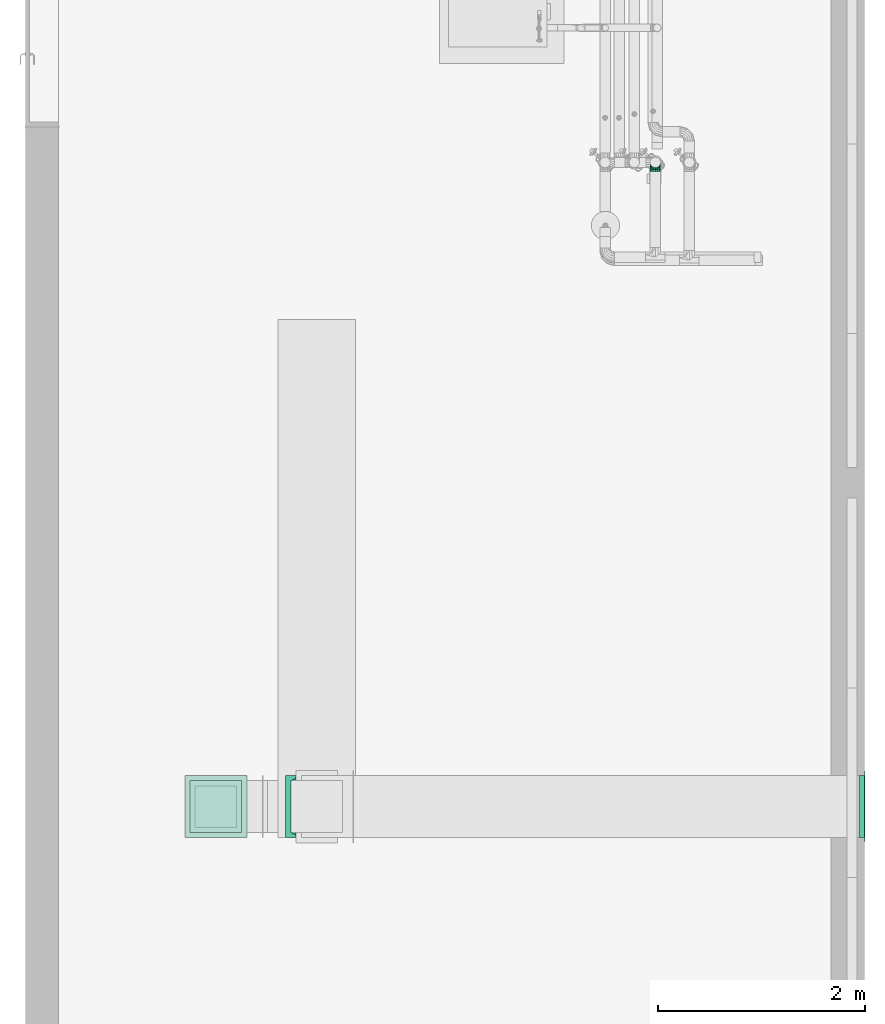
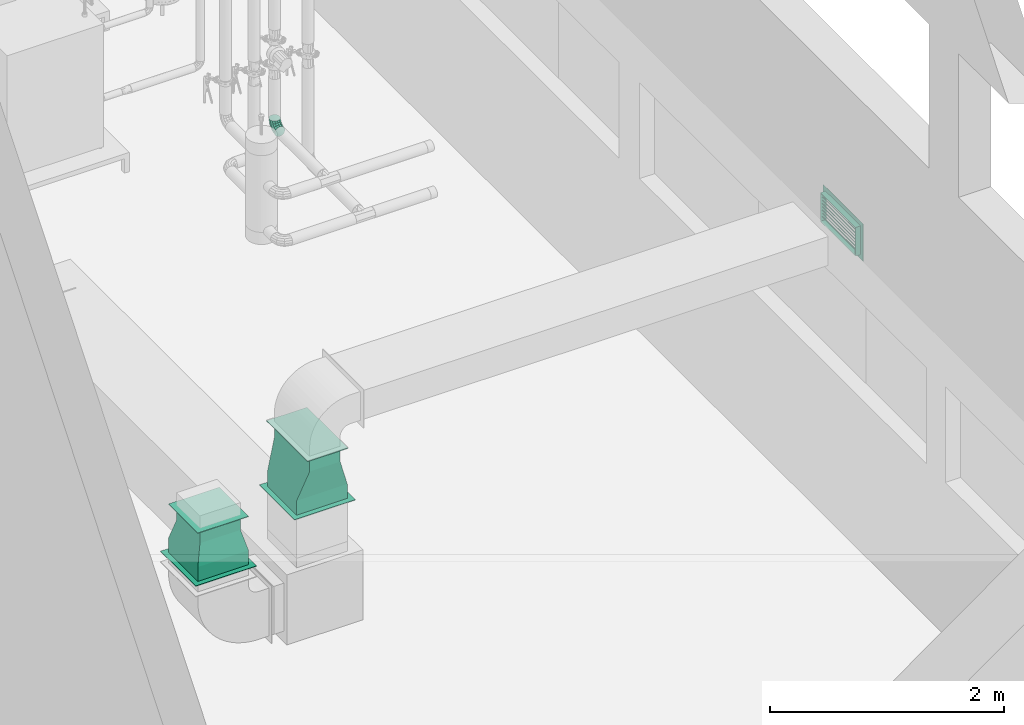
# One storey, part 30 of 43: 3 flow fittings, 1 flow terminal.
"""IFC2X3 building model written with IfcOpenShell, lengths in millimetres."""

from ifc_helpers import new_model, entity, si_unit, converted_unit, derived_unit, direction, frame, origin, place, context, subcontext, project, spatial, faceted_brep, source, transform, mapped, material, material_list, type_object, type_shapes, element, save


model = new_model("IFC2X3")

# Units and contexts
model_context = context("Model", 3, precision=0.01, world=origin(), true_north=direction((6.123031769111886e-17, 1.0)))
body_context = subcontext(model_context, "Body", "Model", "MODEL_VIEW")
ifc_project = project(units=[si_unit("LENGTHUNIT", "METRE", prefix="MILLI"), si_unit("AREAUNIT", "SQUARE_METRE"), si_unit("VOLUMEUNIT", "CUBIC_METRE"), converted_unit("PLANEANGLEUNIT", "DEGREE", entity("IfcRatioMeasure", 0.017453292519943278), si_unit("PLANEANGLEUNIT", "RADIAN"), dimensions=[0, 0, 0, 0, 0, 0, 0]), si_unit("MASSUNIT", "GRAM", prefix="KILO"), derived_unit("MASSDENSITYUNIT", [(si_unit("MASSUNIT", "GRAM", prefix="KILO"), 1), (si_unit("LENGTHUNIT", "METRE"), -3)]), derived_unit("MOMENTOFINERTIAUNIT", [(si_unit("LENGTHUNIT", "METRE"), 4)]), si_unit("TIMEUNIT", "SECOND"), si_unit("FREQUENCYUNIT", "HERTZ"), si_unit("THERMODYNAMICTEMPERATUREUNIT", "DEGREE_CELSIUS"), derived_unit("THERMALTRANSMITTANCEUNIT", [(si_unit("MASSUNIT", "GRAM", prefix="KILO"), 1), (si_unit("THERMODYNAMICTEMPERATUREUNIT", "KELVIN"), -1), (si_unit("TIMEUNIT", "SECOND"), -3)]), derived_unit("VOLUMETRICFLOWRATEUNIT", [(si_unit("LENGTHUNIT", "METRE"), 3), (si_unit("TIMEUNIT", "SECOND"), -1)]), derived_unit("MASSFLOWRATEUNIT", [(si_unit("MASSUNIT", "GRAM", prefix="KILO"), 1), (si_unit("TIMEUNIT", "SECOND"), -1)]), derived_unit("ROTATIONALFREQUENCYUNIT", [(si_unit("TIMEUNIT", "SECOND"), -1)]), si_unit("ELECTRICCURRENTUNIT", "AMPERE"), si_unit("ELECTRICVOLTAGEUNIT", "VOLT"), si_unit("POWERUNIT", "WATT"), si_unit("FORCEUNIT", "NEWTON", prefix="KILO"), si_unit("ILLUMINANCEUNIT", "LUX"), si_unit("LUMINOUSFLUXUNIT", "LUMEN"), si_unit("LUMINOUSINTENSITYUNIT", "CANDELA"), derived_unit("USERDEFINED", [(si_unit("MASSUNIT", "GRAM", prefix="KILO"), -1), (si_unit("LENGTHUNIT", "METRE"), -2), (si_unit("TIMEUNIT", "SECOND"), 3), (si_unit("LUMINOUSFLUXUNIT", "LUMEN"), 1)]), derived_unit("SOUNDPOWERUNIT", [(si_unit("MASSUNIT", "GRAM", prefix="KILO"), 1), (si_unit("LENGTHUNIT", "METRE"), 2), (si_unit("TIMEUNIT", "SECOND"), -3)]), derived_unit("SOUNDPRESSUREUNIT", [(si_unit("MASSUNIT", "GRAM", prefix="KILO"), 1), (si_unit("LENGTHUNIT", "METRE"), -1), (si_unit("TIMEUNIT", "SECOND"), -2)]), derived_unit("LINEARVELOCITYUNIT", [(si_unit("LENGTHUNIT", "METRE"), 1), (si_unit("TIMEUNIT", "SECOND"), -1)]), si_unit("PRESSUREUNIT", "PASCAL"), derived_unit("USERDEFINED", [(si_unit("LENGTHUNIT", "METRE"), -2), (si_unit("MASSUNIT", "GRAM", prefix="KILO"), 1), (si_unit("TIMEUNIT", "SECOND"), -2)]), derived_unit("LINEARFORCEUNIT", [(si_unit("MASSUNIT", "GRAM", prefix="KILO"), 1), (si_unit("LENGTHUNIT", "METRE"), 1), (si_unit("TIMEUNIT", "SECOND"), -2), (si_unit("LENGTHUNIT", "METRE"), -1)]), derived_unit("PLANARFORCEUNIT", [(si_unit("MASSUNIT", "GRAM", prefix="KILO"), 1), (si_unit("LENGTHUNIT", "METRE"), 1), (si_unit("TIMEUNIT", "SECOND"), -2), (si_unit("LENGTHUNIT", "METRE"), -2)])], contexts=[model_context])

# Site, building, storey
site_placement = place(None, origin())
site = spatial("IfcSite", under=ifc_project, at=site_placement, Name="Default", CompositionType="ELEMENT")
building_placement = place(site_placement, origin())
building = spatial("IfcBuilding", under=site, at=building_placement, CompositionType="ELEMENT")
storey_placement = place(building_placement, frame((0.0, 0.0, 270.0)))
storey = spatial("IfcBuildingStorey", under=building, at=storey_placement, Name="Niveau 0", CompositionType="ELEMENT", Elevation=270.0)

# Flow fitting
ifc_material_1 = material(Name="<Unnamed>")
ifc_material_list_1 = material_list([ifc_material_1, ifc_material_1, ifc_material_1, ifc_material_1, ifc_material_1])
ifc_material_list_2 = material_list([ifc_material_1, ifc_material_1, ifc_material_1, ifc_material_1, ifc_material_1])
duct_fitting_type_1 = type_object("IfcDuctFittingType", Name="Transformation rectangulaire - Bridé:Standard", PredefinedType="NOTDEFINED", material=ifc_material_list_2)
shared_shape_1 = source(origin(), body_context, "Body", "Brep", [
    faceted_brep([(355.0, 250.0, 250.0), (355.0, 250.0, -250.0), (355.0, -250.0, -250.0), (355.0, -250.0, 250.0), (510.0, 250.0, 250.0), (510.0, -250.0, 250.0), (510.0, -250.0, -250.0), (510.0, 250.0, -250.0)], [[[0, 1, 2, 3]], [[4, 5, 6, 7]], [[1, 0, 4, 7]], [[2, 1, 7, 6]], [[3, 2, 6, 5]], [[0, 3, 5, 4]]]),
    faceted_brep([(355.0, 250.0, 250.0), (355.0, -250.0, 250.0), (355.0, -250.0, -250.0), (355.0, 250.0, -250.0), (155.0, 200.0, 200.0), (155.0, 200.0, -200.0), (155.0, -200.0, -200.0), (155.0, -200.0, 200.0)], [[[0, 1, 2, 3]], [[4, 5, 6, 7]], [[5, 4, 0, 3]], [[4, 7, 1, 0]], [[7, 6, 2, 1]], [[6, 5, 3, 2]]]),
    faceted_brep([(0.0, 200.0, 200.0), (0.0, 200.0, -200.0), (0.0, -200.0, -200.0), (0.0, -200.0, 200.0), (155.0, 200.0, 200.0), (155.0, -200.0, 200.0), (155.0, -200.0, -200.0), (155.0, 200.0, -200.0)], [[[0, 1, 2, 3]], [[4, 5, 6, 7]], [[1, 0, 4, 7]], [[2, 1, 7, 6]], [[3, 2, 6, 5]], [[0, 3, 5, 4]]]),
    faceted_brep([(505.0, 300.0, 300.0), (505.0, 300.0, -300.0), (505.0, -300.0, -300.0), (505.0, -300.0, 300.0), (510.0, 300.0, 300.0), (510.0, -300.0, 300.0), (510.0, -300.0, -300.0), (510.0, 300.0, -300.0)], [[[0, 1, 2, 3]], [[4, 5, 6, 7]], [[1, 0, 4, 7]], [[2, 1, 7, 6]], [[3, 2, 6, 5]], [[0, 3, 5, 4]]]),
    faceted_brep([(0.0, 250.0, 250.0), (0.0, 250.0, -250.0), (0.0, -250.0, -250.0), (0.0, -250.0, 250.0), (5.0, 250.0, 250.0), (5.0, -250.0, 250.0), (5.0, -250.0, -250.0), (5.0, 250.0, -250.0)], [[[0, 1, 2, 3]], [[4, 5, 6, 7]], [[1, 0, 4, 7]], [[2, 1, 7, 6]], [[3, 2, 6, 5]], [[0, 3, 5, 4]]]),
])
type_shapes(duct_fitting_type_1, [shared_shape_1])
flow_fitting_1_placement = place(storey_placement, frame((-6260.53655806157, -19048.55253287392, 1995.0), z_axis=(0.0, -1.0, 0.0), x_axis=(0.0, 0.0, -1.0)))
element("IfcFlowFitting", 1, at=flow_fitting_1_placement, inside=storey, type_object=duct_fitting_type_1, material=ifc_material_list_1, Name="Transformation rectangulaire - Bridé:Standard", ObjectType="Transformation rectangulaire - Bridé:Standard", context=body_context, shape_type="MappedRepresentation", body=[
    mapped(shared_shape_1, transform((0.0, 0.0, 0.0), scale=1.0)),
])

# Flow terminal
ifc_material_2 = material(Name="Acier - Galvanisé")
ifc_material_list_3 = material_list([ifc_material_2, ifc_material_2, ifc_material_2, ifc_material_2, ifc_material_2, ifc_material_2, ifc_material_2, ifc_material_2, ifc_material_2])
ifc_material_list_4 = material_list([ifc_material_2, ifc_material_2, ifc_material_2, ifc_material_2, ifc_material_2, ifc_material_2, ifc_material_2, ifc_material_2, ifc_material_2])
air_terminal_type = type_object("IfcAirTerminalType", Name="Grille air neuf:600x300 mm", PredefinedType="NOTDEFINED", material=ifc_material_list_4)
shared_shape_2 = source(origin(), body_context, "Body", "Brep", [
    faceted_brep([(640.1177565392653, 14.28849561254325, 125.04524854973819), (640.1177565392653, 40.0, 94.40347082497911), (640.1177565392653, 43.83022221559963, 97.61740887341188), (640.1177565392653, 18.118717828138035, 128.25918659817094), (50.117756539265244, 14.28849561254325, 125.04524854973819), (50.117756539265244, 18.118717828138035, 128.25918659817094), (50.117756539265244, 43.83022221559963, 97.61740887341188), (50.117756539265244, 40.0, 94.40347082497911)], [[[0, 1, 2, 3]], [[4, 5, 6, 7]], [[1, 0, 4, 7]], [[2, 1, 7, 6]], [[3, 2, 6, 5]], [[0, 3, 5, 4]]]),
    faceted_brep([(640.1177565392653, 14.28849561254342, 159.33096283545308), (640.1177565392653, 40.0, 128.68918511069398), (640.1177565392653, 43.830222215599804, 131.90312315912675), (640.1177565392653, 18.1187178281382, 162.54490088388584), (50.117756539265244, 14.28849561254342, 159.33096283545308), (50.117756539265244, 18.1187178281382, 162.54490088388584), (50.117756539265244, 43.830222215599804, 131.90312315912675), (50.117756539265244, 40.0, 128.68918511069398)], [[[0, 1, 2, 3]], [[4, 5, 6, 7]], [[1, 0, 4, 7]], [[2, 1, 7, 6]], [[3, 2, 6, 5]], [[0, 3, 5, 4]]]),
    faceted_brep([(640.1177565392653, 14.288495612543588, 193.61667712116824), (640.1177565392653, 40.0, 162.97489939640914), (640.1177565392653, 43.83022221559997, 166.1888374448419), (640.1177565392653, 18.118717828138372, 196.83061516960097), (50.117756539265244, 14.288495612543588, 193.61667712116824), (50.117756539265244, 18.118717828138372, 196.83061516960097), (50.117756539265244, 43.83022221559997, 166.1888374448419), (50.117756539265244, 40.0, 162.97489939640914)], [[[0, 1, 2, 3]], [[4, 5, 6, 7]], [[1, 0, 4, 7]], [[2, 1, 7, 6]], [[3, 2, 6, 5]], [[0, 3, 5, 4]]]),
    faceted_brep([(640.1177565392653, 14.288495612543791, 227.9023914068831), (640.1177565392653, 40.0, 197.26061368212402), (640.1177565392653, 43.83022221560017, 200.47455173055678), (640.1177565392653, 18.118717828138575, 231.11632945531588), (50.117756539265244, 14.288495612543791, 227.9023914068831), (50.117756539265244, 18.118717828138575, 231.11632945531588), (50.117756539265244, 43.83022221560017, 200.47455173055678), (50.117756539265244, 40.0, 197.26061368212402)], [[[0, 1, 2, 3]], [[4, 5, 6, 7]], [[1, 0, 4, 7]], [[2, 1, 7, 6]], [[3, 2, 6, 5]], [[0, 3, 5, 4]]]),
    faceted_brep([(640.1177565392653, 14.288495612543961, 262.18810569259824), (640.1177565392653, 40.0, 231.54632796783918), (640.1177565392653, 43.830222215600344, 234.76026601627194), (640.1177565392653, 18.118717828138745, 265.40204374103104), (50.117756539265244, 14.288495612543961, 262.18810569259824), (50.117756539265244, 18.118717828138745, 265.40204374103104), (50.117756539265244, 43.830222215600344, 234.76026601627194), (50.117756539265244, 40.0, 231.54632796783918)], [[[0, 1, 2, 3]], [[4, 5, 6, 7]], [[1, 0, 4, 7]], [[2, 1, 7, 6]], [[3, 2, 6, 5]], [[0, 3, 5, 4]]]),
    faceted_brep([(640.1177565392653, 14.28849561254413, 296.47381997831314), (640.1177565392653, 40.0, 265.83204225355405), (640.1177565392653, 43.830222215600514, 269.04598030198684), (640.1177565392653, 18.118717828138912, 299.6877580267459), (50.117756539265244, 14.28849561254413, 296.47381997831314), (50.117756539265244, 18.118717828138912, 299.6877580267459), (50.117756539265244, 43.830222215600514, 269.04598030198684), (50.117756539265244, 40.0, 265.83204225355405)], [[[0, 1, 2, 3]], [[4, 5, 6, 7]], [[1, 0, 4, 7]], [[2, 1, 7, 6]], [[3, 2, 6, 5]], [[0, 3, 5, 4]]]),
    faceted_brep([(640.1177565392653, 14.288495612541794, 90.75953426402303), (640.1177565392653, 40.0, 60.11775653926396), (640.1177565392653, 43.83022221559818, 63.33169458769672), (640.1177565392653, 18.118717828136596, 93.9734723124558), (50.117756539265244, 14.288495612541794, 90.75953426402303), (50.117756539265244, 18.118717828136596, 93.9734723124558), (50.117756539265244, 43.83022221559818, 63.33169458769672), (50.117756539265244, 40.0, 60.11775653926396)], [[[0, 1, 2, 3]], [[4, 5, 6, 7]], [[1, 0, 4, 7]], [[2, 1, 7, 6]], [[3, 2, 6, 5]], [[0, 3, 5, 4]]]),
    faceted_brep([(640.1177565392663, 14.288495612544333, 330.7595342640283), (640.1177565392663, 40.0, 300.11775653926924), (640.1177565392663, 43.83022221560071, 303.331694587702), (640.1177565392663, 18.118717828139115, 333.97347231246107), (50.11775653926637, 14.288495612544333, 330.7595342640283), (50.11775653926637, 18.118717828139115, 333.97347231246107), (50.11775653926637, 43.83022221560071, 303.331694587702), (50.11775653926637, 40.0, 300.11775653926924)], [[[0, 1, 2, 3]], [[4, 5, 6, 7]], [[1, 0, 4, 7]], [[2, 1, 7, 6]], [[3, 2, 6, 5]], [[0, 3, 5, 4]]]),
    faceted_brep([(45.11775653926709, 0.0, 345.1177565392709), (45.11775653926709, 50.0, 345.1177565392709), (45.11775653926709, 50.0, 45.11775653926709), (45.11775653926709, 0.0, 45.11775653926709), (50.11775653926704, 55.0, 340.11775653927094), (50.11775653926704, 0.0, 340.11775653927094), (50.11775653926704, 0.0, 50.11775653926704), (50.11775653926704, 55.0, 50.11775653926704), (0.0, 50.0, 390.235513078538), (5.0, 55.0, 385.2355130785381), (5.0, 55.0, 5.0), (0.0, 50.0, 0.0), (645.1177565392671, 50.0, 45.11775653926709), (645.1177565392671, 0.0, 45.11775653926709), (640.1177565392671, 0.0, 50.11775653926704), (640.1177565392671, 55.0, 50.11775653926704), (685.2355130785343, 55.0, 5.0), (690.2355130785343, 50.0, 0.0), (645.1177565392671, 50.0, 345.1177565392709), (645.1177565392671, 0.0, 345.1177565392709), (640.1177565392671, 0.0, 340.11775653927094), (640.1177565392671, 55.0, 340.11775653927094), (685.2355130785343, 55.0, 385.2355130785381), (690.2355130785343, 50.0, 390.235513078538)], [[[0, 1, 2, 3]], [[4, 5, 6, 7]], [[8, 9, 10, 11]], [[3, 2, 12, 13]], [[7, 6, 14, 15]], [[11, 10, 16, 17]], [[13, 12, 18, 19]], [[15, 14, 20, 21]], [[17, 16, 22, 23]], [[19, 18, 1, 0]], [[3, 13, 19, 0], [5, 20, 14, 6]], [[21, 20, 5, 4]], [[7, 15, 21, 4], [9, 22, 16, 10]], [[23, 22, 9, 8]], [[11, 17, 23, 8], [1, 18, 12, 2]]], outer=[[True], [True], [True], [True], [True], [True], [True], [True], [True], [True], [True, False], [True], [False, True], [True], [True, False]]),
])
type_shapes(air_terminal_type, [shared_shape_2])
flow_terminal_placement = place(storey_placement, frame((-50.0, -18703.434776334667, 2604.8822434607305), z_axis=(0.0, 0.0, 1.0), x_axis=(0.0, -1.0, 0.0)))
element("IfcFlowTerminal", 2, at=flow_terminal_placement, inside=storey, type_object=air_terminal_type, material=ifc_material_list_3, Name="Grille air neuf:600x300 mm", ObjectType="Grille air neuf:600x300 mm", context=body_context, shape_type="MappedRepresentation", body=[
    mapped(shared_shape_2, transform((0.0, 0.0, 0.0), scale=1.0)),
])

# Flow fittings
ifc_material_list_5 = material_list([ifc_material_1, ifc_material_1, ifc_material_1, ifc_material_1, ifc_material_1])
ifc_material_list_6 = material_list([ifc_material_1, ifc_material_1, ifc_material_1, ifc_material_1, ifc_material_1])
duct_fitting_type_2 = type_object("IfcDuctFittingType", Name="Transformation rectangulaire - Bridé:Standard", PredefinedType="NOTDEFINED", material=ifc_material_list_6)
shared_shape_3 = source(origin(), body_context, "Body", "Brep", [
    faceted_brep([(455.0, 300.0, 150.0), (455.0, 300.0, -150.0), (455.0, -300.0, -150.0), (455.0, -300.0, 150.0), (610.0, 300.0, 150.0), (610.0, -300.0, 150.0), (610.0, -300.0, -150.0), (610.0, 300.0, -150.0)], [[[0, 1, 2, 3]], [[4, 5, 6, 7]], [[1, 0, 4, 7]], [[2, 1, 7, 6]], [[3, 2, 6, 5]], [[0, 3, 5, 4]]]),
    faceted_brep([(455.0, 300.0, 150.0), (455.0, -300.0, 150.0), (455.0, -300.0, -150.0), (455.0, 300.0, -150.0), (155.0, 250.0, 250.0), (155.0, 250.0, -250.0), (155.0, -250.0, -250.0), (155.0, -250.0, 250.0)], [[[0, 1, 2, 3]], [[4, 5, 6, 7]], [[5, 4, 0, 3]], [[4, 7, 1, 0]], [[7, 6, 2, 1]], [[6, 5, 3, 2]]]),
    faceted_brep([(0.0, 250.0, 250.0), (0.0, 250.0, -250.0), (0.0, -250.0, -250.0), (0.0, -250.0, 250.0), (155.0, 250.0, 250.0), (155.0, -250.0, 250.0), (155.0, -250.0, -250.0), (155.0, 250.0, -250.0)], [[[0, 1, 2, 3]], [[4, 5, 6, 7]], [[1, 0, 4, 7]], [[2, 1, 7, 6]], [[3, 2, 6, 5]], [[0, 3, 5, 4]]]),
    faceted_brep([(605.0, 350.0, 200.0), (605.0, 350.0, -200.0), (605.0, -350.0, -200.0), (605.0, -350.0, 200.0), (610.0, 350.0, 200.0), (610.0, -350.0, 200.0), (610.0, -350.0, -200.0), (610.0, 350.0, -200.0)], [[[0, 1, 2, 3]], [[4, 5, 6, 7]], [[1, 0, 4, 7]], [[2, 1, 7, 6]], [[3, 2, 6, 5]], [[0, 3, 5, 4]]]),
    faceted_brep([(0.0, 300.0, 300.0), (0.0, 300.0, -300.0), (0.0, -300.0, -300.0), (0.0, -300.0, 300.0), (5.0, 300.0, 300.0), (5.0, -300.0, 300.0), (5.0, -300.0, -300.0), (5.0, 300.0, -300.0)], [[[0, 1, 2, 3]], [[4, 5, 6, 7]], [[1, 0, 4, 7]], [[2, 1, 7, 6]], [[3, 2, 6, 5]], [[0, 3, 5, 4]]]),
])
type_shapes(duct_fitting_type_2, [shared_shape_3])
flow_fitting_2_placement = place(storey_placement, frame((-5285.742523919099, -19048.552532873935, 1835.0), z_axis=(-1.0, 0.0, 0.0), x_axis=(0.0, 0.0, 1.0)))
element("IfcFlowFitting", 3, at=flow_fitting_2_placement, inside=storey, type_object=duct_fitting_type_2, material=ifc_material_list_5, Name="Transformation rectangulaire - Bridé:Standard", ObjectType="Transformation rectangulaire - Bridé:Standard", context=body_context, shape_type="MappedRepresentation", body=[
    mapped(shared_shape_3, transform((0.0, 0.0, 0.0), scale=1.0)),
])
ifc_material_list_7 = material_list([ifc_material_1, ifc_material_1])
ifc_material_list_8 = material_list([ifc_material_1, ifc_material_1])
pipe_fitting_type = type_object("IfcPipeFittingType", Name="Coude - Générique:Standard", PredefinedType="NOTDEFINED", material=ifc_material_list_8)
shared_shape_4 = source(origin(), body_context, "Body", "Brep", [
    faceted_brep([(32.07162690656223, 19.098484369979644, 0.0), (27.714912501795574, 21.613996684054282, -22.04129394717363), (45.772943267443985, 88.99808439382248, -22.04129394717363), (50.80372477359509, 88.99787384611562, 0.0), (15.507670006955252, 28.662305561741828, -39.71703930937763), (31.677006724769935, 88.99867433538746, -39.71703930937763), (-2.132306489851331, 38.84740698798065, -49.52633793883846), (11.307788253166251, 88.99952682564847, -49.52633793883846), (-21.711203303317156, 50.15201671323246, -49.526337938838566), (-11.300338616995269, 89.00047301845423, -49.526337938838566), (-39.35117980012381, 60.33711813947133, -39.71703930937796), (-31.669557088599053, 89.00132550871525, -39.71703930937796), (-51.55842229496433, 67.38542701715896, -22.041293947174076), (-45.7654936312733, 89.00191545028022, -22.041293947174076), (-55.91513669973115, 69.9009393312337, 0.0), (-50.796275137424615, 89.00212599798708, 0.0), (-51.55842229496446, 67.38542701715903, 22.041293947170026), (-45.76549363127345, 89.00191545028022, 22.041293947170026), (-39.35117980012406, 60.33711813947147, 39.71703930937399), (-31.66955708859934, 89.00132550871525, 39.71703930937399), (-21.71120330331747, 50.15201671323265, 49.52633793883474), (-11.300338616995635, 89.00047301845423, 49.52633793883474), (-2.1323064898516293, 38.84740698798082, 49.52633793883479), (11.30778825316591, 88.99952682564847, 49.52633793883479), (15.507670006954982, 28.662305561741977, 39.71703930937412), (31.677006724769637, 88.99867433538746, 39.71703930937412), (27.71491250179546, 21.613996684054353, 22.04129394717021), (45.772943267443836, 88.99808439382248, 22.04129394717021), (-19.099826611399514, -32.070827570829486, 0.0), (-21.61515658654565, -27.714007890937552, -22.04129394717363), (-28.66295456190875, -15.50647042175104, -39.71703930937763), (-38.84731771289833, 2.1339323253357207, -49.52633793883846), (-50.151108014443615, 21.713302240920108, -49.526337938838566), (-60.33547116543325, 39.35370498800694, -39.71703930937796), (-67.38326914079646, 51.56124245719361, -22.041293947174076), (-69.89859911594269, 55.918062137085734, 0.0), (-67.38326914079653, 51.561242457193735, 22.041293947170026), (-60.33547116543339, 39.353704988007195, 39.71703930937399), (-50.1511080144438, 21.71330224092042, 49.52633793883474), (-38.8473177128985, 2.133932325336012, 49.52633793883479), (-28.6629545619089, -15.506470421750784, 39.71703930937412), (-21.61515658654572, -27.714007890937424, 22.04129394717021), (-89.0, -50.8000000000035, 0.0), (-89.0, -45.76921848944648, -22.04129394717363), (-89.0, -31.673281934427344, -39.71703930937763), (-89.0, -11.304063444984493, -49.52633793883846), (-89.0, 11.304063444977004, -49.526337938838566), (-89.0, 31.673281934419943, -39.71703930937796), (-89.0, 45.769218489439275, -22.041293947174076), (-89.0, 50.7999999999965, 0.0), (-89.0, 45.769218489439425, 22.041293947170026), (-89.0, 31.67328193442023, 39.71703930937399), (-89.0, 11.304063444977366, 49.52633793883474), (-89.0, -11.304063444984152, 49.52633793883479), (-89.0, -31.673281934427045, 39.71703930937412), (-89.0, -45.76921848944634, 22.04129394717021)], [[[0, 1, 2, 3]], [[1, 4, 5, 2]], [[4, 6, 7, 5]], [[6, 8, 9, 7]], [[8, 10, 11, 9]], [[10, 12, 13, 11]], [[12, 14, 15, 13]], [[14, 16, 17, 15]], [[16, 18, 19, 17]], [[18, 20, 21, 19]], [[20, 22, 23, 21]], [[22, 24, 25, 23]], [[24, 26, 27, 25]], [[26, 0, 3, 27]], [[28, 29, 1, 0]], [[29, 30, 4, 1]], [[30, 31, 6, 4]], [[31, 32, 8, 6]], [[32, 33, 10, 8]], [[33, 34, 12, 10]], [[34, 35, 14, 12]], [[35, 36, 16, 14]], [[36, 37, 18, 16]], [[37, 38, 20, 18]], [[38, 39, 22, 20]], [[39, 40, 24, 22]], [[40, 41, 26, 24]], [[41, 28, 0, 26]], [[42, 43, 29, 28]], [[43, 44, 30, 29]], [[44, 45, 31, 30]], [[45, 46, 32, 31]], [[46, 47, 33, 32]], [[47, 48, 34, 33]], [[48, 49, 35, 34]], [[49, 50, 36, 35]], [[50, 51, 37, 36]], [[51, 52, 38, 37]], [[52, 53, 39, 38]], [[53, 54, 40, 39]], [[54, 55, 41, 40]], [[55, 42, 28, 41]], [[3, 2, 5, 7, 9, 11, 13, 15, 17, 19, 21, 23, 25, 27]], [[55, 54, 53, 52, 51, 50, 49, 48, 47, 46, 45, 44, 43, 42]]]),
])
type_shapes(pipe_fitting_type, [shared_shape_4])
flow_fitting_3_placement = place(storey_placement, frame((-2018.2631800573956, -12830.0, 741.9666434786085), z_axis=(1.0, 0.0, 0.0), x_axis=(0.0, 1.0, 4.185188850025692e-05)))
element("IfcFlowFitting", 4, at=flow_fitting_3_placement, inside=storey, type_object=pipe_fitting_type, material=ifc_material_list_7, Name="Coude - Générique:Standard", ObjectType="Coude - Générique:Standard", context=body_context, shape_type="MappedRepresentation", body=[
    mapped(shared_shape_4, transform((0.0, 0.0, 0.0), scale=1.0)),
])

save(model, "model.ifc")
